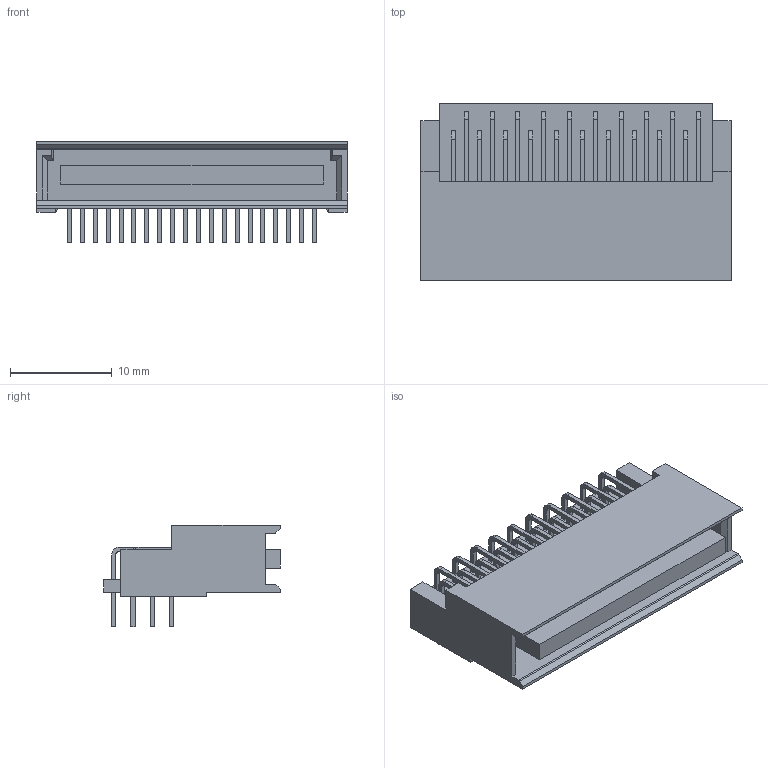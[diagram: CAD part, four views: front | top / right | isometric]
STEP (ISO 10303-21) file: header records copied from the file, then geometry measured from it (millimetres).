
FILE_DESCRIPTION(/* description */ (''),/* implementation_level */ '2;1');
FILE_NAME(/* name */ 'P51-040P-SR1-XX_step.stp',/* time_stamp */ '2009-11-23T10:48:18-06:00',/* author */ (''),/* organization */ (''),/* preprocessor_version */ 'ST-DEVELOPER v11',/* originating_system */ 'UGS - NX 5.0',/* authorisation */ '');
FILE_SCHEMA (('AUTOMOTIVE_DESIGN { 1 0 10303 214 1 1 1 1 }'));
Length unit declared in the file: millimetre
Products named in the file (1): P51-040P-SR1-XX
Bounding box: 30.53 x 17.4 x 10 mm (x, y, z)
Volume: 1675.1 mm3; surface area: 3109.5 mm2
Topology: 1 solids, 1 shells, 575 faces, 1592 edges, 1060 vertices
Faces by surface type: plane 493, cylinder 82
Entity records: 18304 total; most frequent: CARTESIAN_POINT 3234, ORIENTED_EDGE 3184, DIRECTION 2906, EDGE_CURVE 1592, LINE 1426, VECTOR 1426, VERTEX_POINT 1060, AXIS2_PLACEMENT_3D 740
